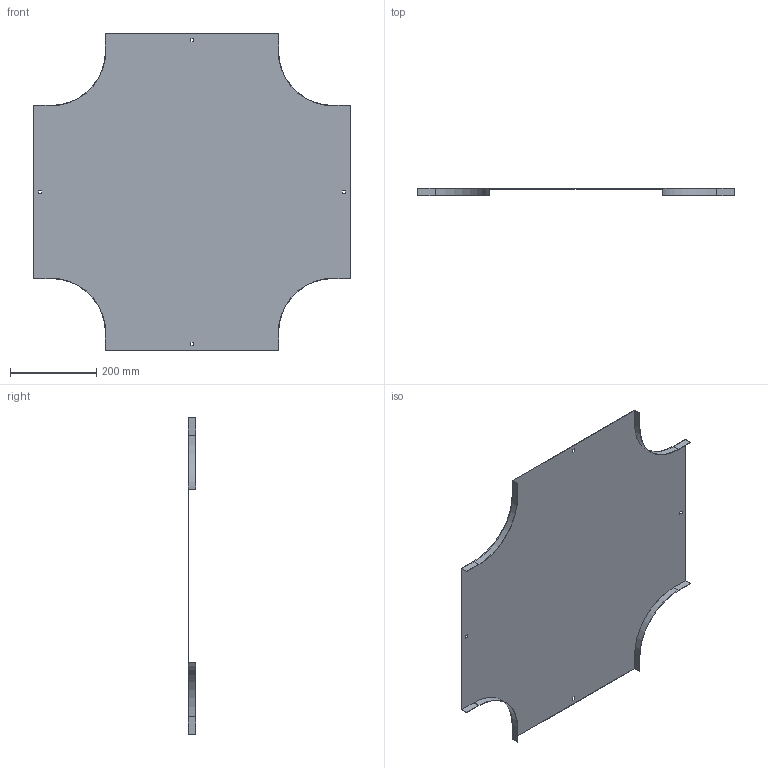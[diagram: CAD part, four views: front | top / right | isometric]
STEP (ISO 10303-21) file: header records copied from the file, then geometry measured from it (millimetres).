
FILE_DESCRIPTION (( 'STEP AP214' ), '1' );
FILE_NAME ('OC_400.step', '2025-07-16T09:10:52', ( '' ), ( '' ), 'SwSTEP 2.0', 'SolidWorks 2023', '' );
FILE_SCHEMA (( 'AUTOMOTIVE_DESIGN' ));
Length unit declared in the file: millimetre
Products named in the file (1): OC_400
Bounding box: 734 x 17 x 734 mm (x, y, z)
Volume: 459829.2 mm3; surface area: 922610.2 mm2
Topology: 1 solids, 1 shells, 50 faces, 144 edges, 96 vertices
Faces by surface type: plane 42, cylinder 8
Entity records: 1663 total; most frequent: CARTESIAN_POINT 291, ORIENTED_EDGE 288, DIRECTION 262, EDGE_CURVE 144, VECTOR 128, LINE 128, VERTEX_POINT 96, AXIS2_PLACEMENT_3D 67
